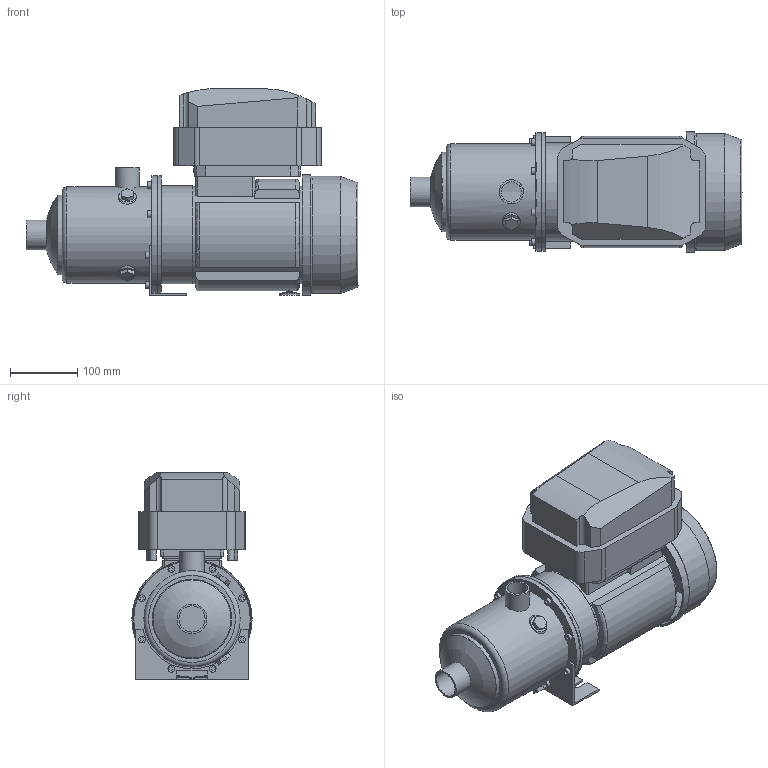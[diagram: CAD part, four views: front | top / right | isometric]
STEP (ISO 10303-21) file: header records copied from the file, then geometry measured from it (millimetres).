
FILE_DESCRIPTION(/* description */ ('Unknown'),/* implementation_level */ '2;1');
FILE_NAME(/* name */ 'MH 5 [5] T6 IE3 DTm',/* time_stamp */ '2026-07-10T15:13:46+02:00',/* author */ ('Unknown'),/* organization */ ('Unknown'),/* preprocessor_version */ 'ST-DEVELOPER v20',/* originating_system */ 'Solid Edge',/* authorisation */ 'Unknown');
FILE_SCHEMA (('AUTOMOTIVE_DESIGN {1 0 10303 214 3 1 1}'));
Length unit declared in the file: millimetre
Products named in the file (9): MH 5 [5] T6 IE3 DTm; Flangia motore Tonda M90; Corpo MH 3-5 [5]; Motore MEC 90 - T - VFD; carcassa MEC 90; Copriventola MEC 90; VFD sempl; Piedino MEC 90 int.90; Staffa 3-5-9 int.90
Assembly tree (8 placements, depth 3):
  MH 5 [5] T6 IE3 DTm
    Flangia motore Tonda M90
    Corpo MH 3-5 [5]
    Motore MEC 90 - T - VFD
      carcassa MEC 90
      Copriventola MEC 90
      VFD sempl
    Piedino MEC 90 int.90
    Staffa 3-5-9 int.90
Bounding box: 494.6 x 179.1 x 308 mm (x, y, z)
Volume: 6017417 mm3; surface area: 763918.6 mm2
Topology: 7 solids, 7 shells, 305 faces, 741 edges, 496 vertices
Faces by surface type: plane 197, cylinder 76, cone 19, torus 11, sphere 2
Full cylindrical faces by diameter (mm): 7 x4, 10 x9, 21 x1, 30 x1, 30.291 x1, 36 x1, 38.952 x1, 44.5 x1, 116.1 x1, 118.5 x1, 135 x1, 140 x3, 141.1 x1, 143.5 x1, 145 x1, 146 x1, 169.5 x1, 173.5 x1, 174.1 x2, 174.5 x1, 176.5 x2, 179.1 x1
Entity records: 9933 total; most frequent: CARTESIAN_POINT 1797, DIRECTION 1426, ORIENTED_EDGE 1328, EDGE_CURVE 664, AXIS2_PLACEMENT_3D 498, VERTEX_POINT 471, LINE 430, VECTOR 430
